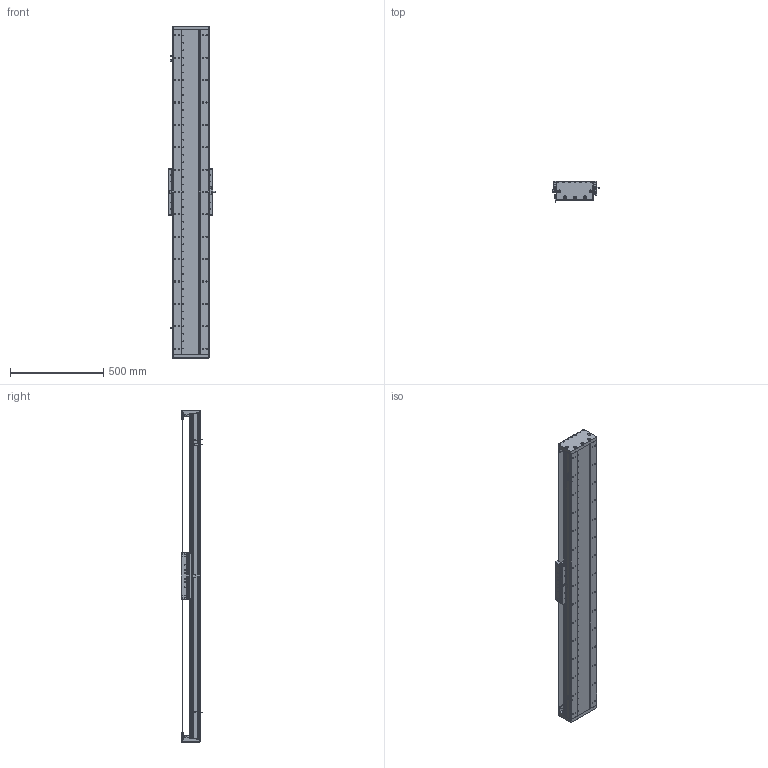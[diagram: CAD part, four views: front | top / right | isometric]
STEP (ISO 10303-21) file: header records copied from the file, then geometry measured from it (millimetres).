
FILE_DESCRIPTION (( 'STEP AP203' ), '1' );
FILE_NAME ('DA-C195-C3-T1440-C010-0.2 眻盄萇儂.STEP', '2025-08-15T01:38:25', ( '' ), ( '' ), 'SwSTEP 2.0', 'SolidWorks 2019', '' );
FILE_SCHEMA (( 'CONFIG_CONTROL_DESIGN' ));
Length unit declared in the file: millimetre
Products named in the file (15): DA195詩湍裔啣; LMT黍杅芛; IU-CU195-L-00 菁釱(L1740); CU195-C3賑輸-俋楷; MS200 棠掑喜S315-T240; IU-CU195-L 菁釱絳寢; DA165-GYP-00 光电感应片(默认); DA195詩湍菜輸; DA-C195-C3-T1440-C010-0.2 眻盄萇儂; DA95-HXJ-00 遣喳砎蝶; 葩璃 DA95-GT-T-00; PM-T45ㄗ侂狟ㄘ; DA195詩湍嶺輸; DA195詩湍郪璃; DA-C195-GD-DB-H-00 傷啣
Assembly tree (29 placements, depth 3):
  DA-C195-C3-T1440-C010-0.2 眻盄萇儂
    DA195詩湍郪璃
      DA195詩湍菜輸  x2
      DA195詩湍裔啣
      DA195詩湍嶺輸  x2
      DA95-HXJ-00 遣喳砎蝶  x8
      DA-C195-GD-DB-H-00 傷啣  x2
    IU-CU195-L 菁釱絳寢
      IU-CU195-L-00 菁釱(L1740)
      葩璃 DA95-GT-T-00  x4
    LMT黍杅芛
    MS200 棠掑喜S315-T240
    PM-T45ㄗ侂狟ㄘ  x3
    DA165-GYP-00 光电感应片(默认)
    CU195-C3賑輸-俋楷
Bounding box: 248 x 115.45 x 1780 mm (x, y, z)
Volume: 11198885.6 mm3; surface area: 3224227 mm2
Topology: 86 solids, 118 shells, 3986 faces, 10863 edges, 6801 vertices
Faces by surface type: cylinder 2034, plane 1350, cone 514, torus 52, sphere 36
Entity records: 121583 total; most frequent: CARTESIAN_POINT 30688, ORIENTED_EDGE 18642, DIRECTION 18526, EDGE_CURVE 9321, AXIS2_PLACEMENT_3D 6937, VERTEX_POINT 6003, VECTOR 4652, LINE 4652
